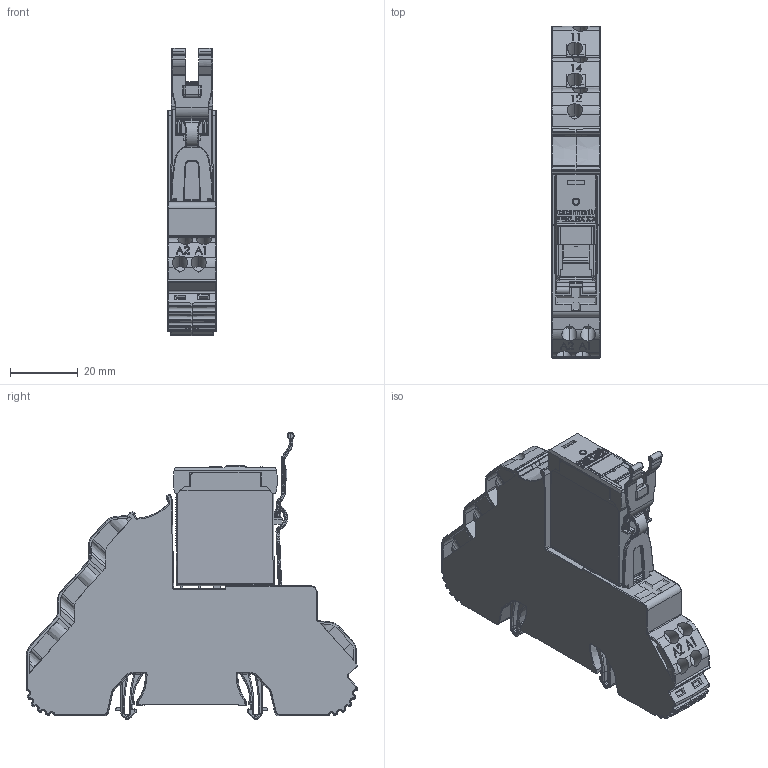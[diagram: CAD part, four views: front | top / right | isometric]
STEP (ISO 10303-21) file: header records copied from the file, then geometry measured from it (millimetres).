
FILE_DESCRIPTION (( 'STEP AP214' ), '1' );
FILE_NAME ('S10-PIR+R10.STEP', '2020-11-19T14:23:54', ( '' ), ( '' ), 'SwSTEP 2.0', 'SolidWorks 2016', '' );
FILE_SCHEMA (( 'AUTOMOTIVE_DESIGN' ));
Length unit declared in the file: millimetre
Products named in the file (1): S10-PIR+R10
Bounding box: 14.4 x 97.67 x 84.49 mm (x, y, z)
Volume: 63046.4 mm3; surface area: 21175.3 mm2
Topology: 3 solids, 3 shells, 2908 faces, 7551 edges, 4726 vertices
Faces by surface type: plane 1635, bspline 598, cylinder 449, cone 102, torus 90, sphere 34
Entity records: 129928 total; most frequent: CARTESIAN_POINT 33436, ORIENTED_EDGE 15082, DIRECTION 10954, EDGE_CURVE 7541, VERTEX_POINT 4724, VECTOR 4444, LINE 4444, AXIS2_PLACEMENT_3D 3255
